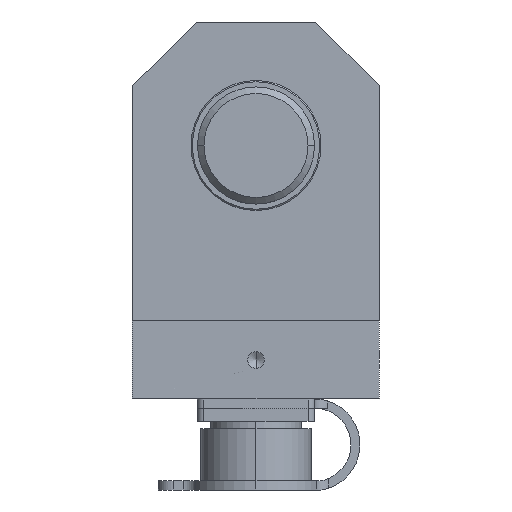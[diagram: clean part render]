
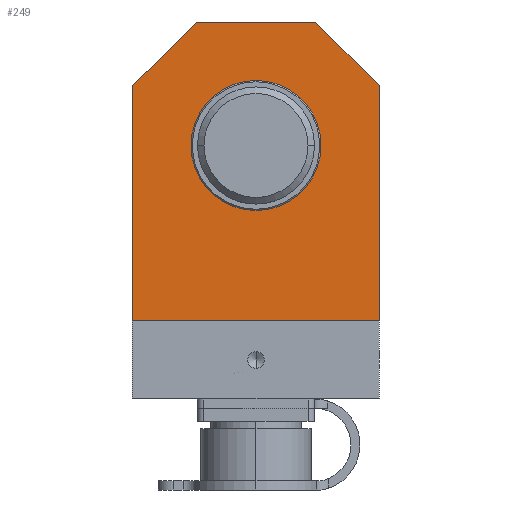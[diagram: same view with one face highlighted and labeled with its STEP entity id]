
A CAD part, left-side view. The second image highlights one B-rep face of the part: STEP entity #249.
In plain terms, the highlighted planar face has unit normal (-1, 0, 0).
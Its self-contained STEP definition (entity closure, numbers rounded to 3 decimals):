
#165 = DIRECTION ( 'NONE',  ( 0., 1., 0. ) ) ;
#249 = ADVANCED_FACE ( 'NONE', ( #3822, #1563 ), #5565, .F. ) ;
#417 = CIRCLE ( 'NONE', #5103, 10. ) ;
#465 = VECTOR ( 'NONE', #5979, 1000. ) ;
#714 = CARTESIAN_POINT ( 'NONE',  ( -22., 19., 6.01 ) ) ;
#887 = VECTOR ( 'NONE', #165, 1000. ) ;
#930 = ORIENTED_EDGE ( 'NONE', *, *, #3786, .T. ) ;
#1007 = VERTEX_POINT ( 'NONE', #3429 ) ;
#1199 = CIRCLE ( 'NONE', #4486, 10. ) ;
#1206 = DIRECTION ( 'NONE',  ( -1., 0., 0. ) ) ;
#1265 = CARTESIAN_POINT ( 'NONE',  ( -22., 0., 33. ) ) ;
#1286 = CARTESIAN_POINT ( 'NONE',  ( -22., -19., 42.2 ) ) ;
#1460 = VERTEX_POINT ( 'NONE', #3296 ) ;
#1528 = DIRECTION ( 'NONE',  ( 0., 1., 0. ) ) ;
#1563 = FACE_BOUND ( 'NONE', #3197, .T. ) ;
#1612 = LINE ( 'NONE', #2618, #465 ) ;
#1710 = VERTEX_POINT ( 'NONE', #1286 ) ;
#1840 = DIRECTION ( 'NONE',  ( 0., 1., 0. ) ) ;
#1969 = VECTOR ( 'NONE', #5603, 1000. ) ;
#2248 = CARTESIAN_POINT ( 'NONE',  ( -22., -9., 52. ) ) ;
#2320 = ORIENTED_EDGE ( 'NONE', *, *, #4698, .T. ) ;
#2375 = LINE ( 'NONE', #2953, #887 ) ;
#2477 = LINE ( 'NONE', #6667, #3796 ) ;
#2618 = CARTESIAN_POINT ( 'NONE',  ( -22., -19., 6.01 ) ) ;
#2759 = VERTEX_POINT ( 'NONE', #4575 ) ;
#2781 = ORIENTED_EDGE ( 'NONE', *, *, #3373, .T. ) ;
#2953 = CARTESIAN_POINT ( 'NONE',  ( -22., 9., 52. ) ) ;
#3197 = EDGE_LOOP ( 'NONE', ( #6275, #5640 ) ) ;
#3279 = EDGE_CURVE ( 'NONE', #1710, #5948, #2477, .T. ) ;
#3283 = DIRECTION ( 'NONE',  ( 0., 0.714, 0.7 ) ) ;
#3296 = CARTESIAN_POINT ( 'NONE',  ( -22., 19., 6.01 ) ) ;
#3373 = EDGE_CURVE ( 'NONE', #1460, #2759, #6452, .T. ) ;
#3429 = CARTESIAN_POINT ( 'NONE',  ( -22., -10., 33. ) ) ;
#3622 = ORIENTED_EDGE ( 'NONE', *, *, #4181, .T. ) ;
#3733 = DIRECTION ( 'NONE',  ( 1., 0., 0. ) ) ;
#3786 = EDGE_CURVE ( 'NONE', #2759, #1710, #1612, .T. ) ;
#3796 = VECTOR ( 'NONE', #3283, 1000. ) ;
#3822 = FACE_OUTER_BOUND ( 'NONE', #5850, .T. ) ;
#4126 = ORIENTED_EDGE ( 'NONE', *, *, #3279, .T. ) ;
#4181 = EDGE_CURVE ( 'NONE', #5948, #5172, #2375, .T. ) ;
#4427 = CARTESIAN_POINT ( 'NONE',  ( -22., 19., 42.2 ) ) ;
#4486 = AXIS2_PLACEMENT_3D ( 'NONE', #4568, #1206, #5134 ) ;
#4522 = CARTESIAN_POINT ( 'NONE',  ( -22., 9., 52. ) ) ;
#4568 = CARTESIAN_POINT ( 'NONE',  ( -22., 0., 33. ) ) ;
#4575 = CARTESIAN_POINT ( 'NONE',  ( -22., -19., 6.01 ) ) ;
#4634 = DIRECTION ( 'NONE',  ( 0., 0., -1. ) ) ;
#4698 = EDGE_CURVE ( 'NONE', #4992, #1460, #5448, .T. ) ;
#4947 = AXIS2_PLACEMENT_3D ( 'NONE', #7148, #3733, #1528 ) ;
#4992 = VERTEX_POINT ( 'NONE', #4427 ) ;
#5019 = CARTESIAN_POINT ( 'NONE',  ( -22., 19., 42.2 ) ) ;
#5066 = EDGE_CURVE ( 'NONE', #5172, #4992, #7031, .T. ) ;
#5103 = AXIS2_PLACEMENT_3D ( 'NONE', #1265, #5196, #1840 ) ;
#5134 = DIRECTION ( 'NONE',  ( 0., 1., 0. ) ) ;
#5172 = VERTEX_POINT ( 'NONE', #4522 ) ;
#5196 = DIRECTION ( 'NONE',  ( -1., 0., 0. ) ) ;
#5266 = VECTOR ( 'NONE', #4634, 1000. ) ;
#5448 = LINE ( 'NONE', #714, #5266 ) ;
#5565 = PLANE ( 'NONE',  #4947 ) ;
#5603 = DIRECTION ( 'NONE',  ( 0., -1., 0. ) ) ;
#5640 = ORIENTED_EDGE ( 'NONE', *, *, #7316, .F. ) ;
#5850 = EDGE_LOOP ( 'NONE', ( #2320, #2781, #930, #4126, #3622, #6821 ) ) ;
#5948 = VERTEX_POINT ( 'NONE', #2248 ) ;
#5979 = DIRECTION ( 'NONE',  ( 0., 0., 1. ) ) ;
#6073 = CARTESIAN_POINT ( 'NONE',  ( -22., 10., 33. ) ) ;
#6275 = ORIENTED_EDGE ( 'NONE', *, *, #7071, .F. ) ;
#6452 = LINE ( 'NONE', #7282, #1969 ) ;
#6488 = VERTEX_POINT ( 'NONE', #6073 ) ;
#6667 = CARTESIAN_POINT ( 'NONE',  ( -22., -19., 42.2 ) ) ;
#6821 = ORIENTED_EDGE ( 'NONE', *, *, #5066, .T. ) ;
#6850 = VECTOR ( 'NONE', #7322, 1000. ) ;
#7031 = LINE ( 'NONE', #5019, #6850 ) ;
#7071 = EDGE_CURVE ( 'NONE', #6488, #1007, #1199, .T. ) ;
#7148 = CARTESIAN_POINT ( 'NONE',  ( -22., 19., 6. ) ) ;
#7282 = CARTESIAN_POINT ( 'NONE',  ( -22., 19., 6.01 ) ) ;
#7316 = EDGE_CURVE ( 'NONE', #1007, #6488, #417, .T. ) ;
#7322 = DIRECTION ( 'NONE',  ( 0., 0.714, -0.7 ) ) ;
